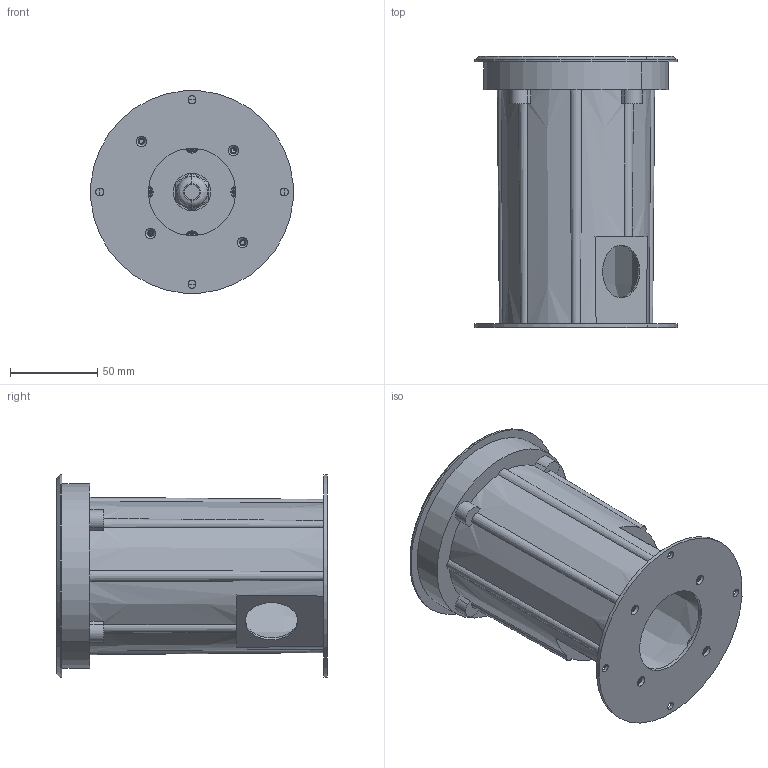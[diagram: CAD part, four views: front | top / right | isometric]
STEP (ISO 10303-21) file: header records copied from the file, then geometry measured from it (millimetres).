
FILE_DESCRIPTION((''),'2;1');
FILE_NAME('ZSXB2DFR0125-_ASM','2024-08-30T14:23:10',('C029'),(''),'CREO PARAMETRIC BY PTC INC, 2021063','CREO PARAMETRIC BY PTC INC, 2021063','');
FILE_SCHEMA(('CONFIG_CONTROL_DESIGN'));
Length unit declared in the file: millimetre
Products named in the file (43): 2DF-CG-FSD_1_1_2; 2DF-DT_3_1_2; 2BC-KTG-Z-Z_1_1_2; 2DF____1_1_2; PRODUCT_89191_1_1_2; YUAN_TOU_JING_ZJ_ASM_2_ASM_1_AS_ASM; 2BC-SRT_31_1_2; TOU_JING_DI_ZOU_D34_12_1_2; TOU_JING_D34_11_1_2; ICRPS0401_2_1_2; TOU_JING_D34_H15_11_1_2; TOU_JING_ZJ_D34_ASM_17_ASM_1_AS_ASM; 2DF_FWZ_D44_11_1_2; 2DF_SRLB_16_1_2; ISO7045-M3X6-4_8_1_1_2; ICRFC0404_3_1_2; TOUJING_YA_QUAN_D35_4_1_2; COB____2DF_ASM_33_ASM_1_ASM_2_ASM; 2FT-MGVENU_1_4_1_2; M4-12-BEI-TOU-LS_1_3_1_2; 2BC-GDJ_1_1_2; 2DF-KDP_1_1_2; PG9_1_1_3_1_2; 2DF___57_2_1_2; 2DF_____ASM_2_ASM_1_ASM_2_ASM; 2FU-FSTVENU_1_3_1_2; XJQ_1_1_2; M12_1_1_2; XL-111-MZH_1_1_2; 2_1_1_2; 2DH-HG_1_2_1_2; 2DF-LM-CG_1_1_2; 2FU-BOLIVENU_1_6_1_2; M3_1_1_2_1_2; 2DH-HG-FST_1_3_1_2; ICRFC0506_3_1_2; FX2DF0156_ASM_43_ASM_1_ASM_2_ASM; 2DF-YMT_8_1; 2DF-YMT-DG_5_3; ASM0006_ASM_1_ASM_1_ASM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
Assembly tree (53 placements, depth 5):
  ZSXB2DFR0125-_ASM
    FX2DF0156_ASM_43_ASM_1_ASM_2_ASM
      2DF-CG-FSD_1_1_2
      2DF-DT_3_1_2
      COB____2DF_ASM_33_ASM_1_ASM_2_ASM
        2BC-KTG-Z-Z_1_1_2
        YUAN_TOU_JING_ZJ_ASM_2_ASM_1_AS_ASM
          2DF____1_1_2
          PRODUCT_89191_1_1_2
        2BC-SRT_31_1_2
        TOU_JING_ZJ_D34_ASM_17_ASM_1_AS_ASM
          TOU_JING_DI_ZOU_D34_12_1_2
          TOU_JING_D34_11_1_2
          ICRPS0401_2_1_2  x2
          TOU_JING_D34_H15_11_1_2
        2DF_FWZ_D44_11_1_2
        2DF_SRLB_16_1_2
        ISO7045-M3X6-4_8_1_1_2  x2
        ICRFC0404_3_1_2  x2
        TOUJING_YA_QUAN_D35_4_1_2
      2FT-MGVENU_1_4_1_2
      M4-12-BEI-TOU-LS_1_3_1_2  x4
      2BC-GDJ_1_1_2
      2DF-KDP_1_1_2
      PG9_1_1_3_1_2
      2DF_____ASM_2_ASM_1_ASM_2_ASM
        2DF___57_2_1_2
      2FU-FSTVENU_1_3_1_2
      XJQ_1_1_2
      M12_1_1_2
      XL-111-MZH_1_1_2
      2_1_1_2  x2
      2DH-HG_1_2_1_2
      2DF-LM-CG_1_1_2
      2FU-BOLIVENU_1_6_1_2
      M3_1_1_2_1_2  x4
      2DH-HG-FST_1_3_1_2
      ICRFC0506_3_1_2  x2
    2DF-083000_ASM
      2DF0001_ASM_5_ASM
        ASM0006_ASM_1_ASM_1_ASM
          2DF-YMT_8_1
          2DF-YMT-DG_5_3
Bounding box: 115.56 x 155 x 115.56 mm (x, y, z)
Volume: 400676.8 mm3; surface area: 284822.4 mm2
Topology: 45 solids, 45 shells, 4439 faces, 12364 edges, 8145 vertices
Faces by surface type: plane 2911, cylinder 782, extrusion 286, cone 238, torus 102, bspline 94, sphere 26
Entity records: 156918 total; most frequent: CARTESIAN_POINT 48849, ORIENTED_EDGE 23044, DIRECTION 20690, EDGE_CURVE 11522, VECTOR 8374, LINE 8088, VERTEX_POINT 7699, AXIS2_PLACEMENT_3D 6158
